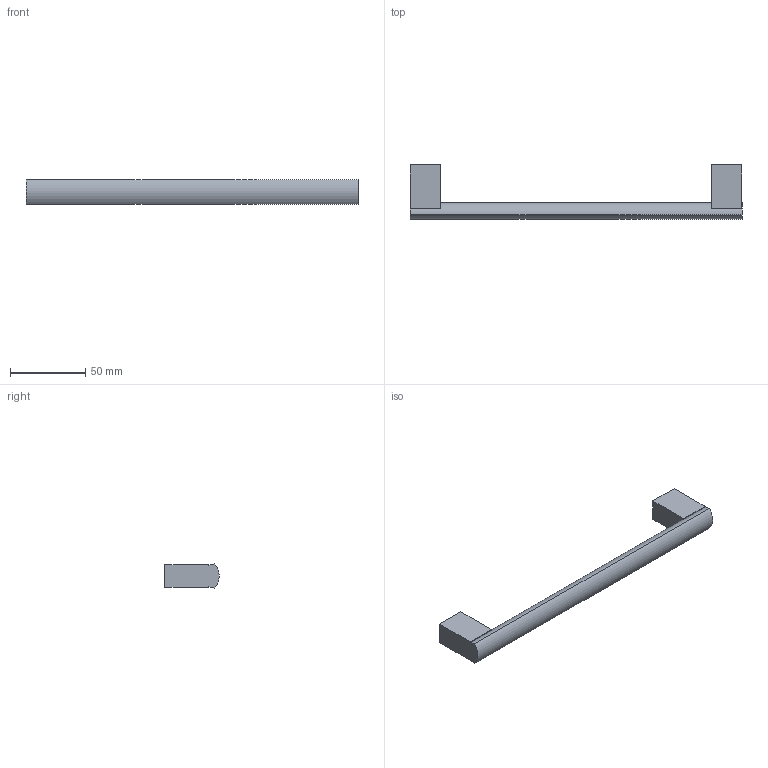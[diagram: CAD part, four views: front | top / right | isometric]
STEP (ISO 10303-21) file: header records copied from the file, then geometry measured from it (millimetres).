
FILE_DESCRIPTION( ( 'STEP AP214' ), '1' );
FILE_NAME( 'D:/Shahbaz D&D/Task/Check and correct handles with 3 drill sockets/Clivia/115215.stp', '2023-02-20T10:37:55', ( '' ), ( '' ), ' ', 'PARTsolutions', ' ' );
FILE_SCHEMA( ( 'AUTOMOTIVE_DESIGN { 1 0 10303 214 1 1 1 1 }' ) );
Length unit declared in the file: millimetre
Products named in the file (1): _115215
Bounding box: 220 x 35.96 x 16 mm (x, y, z)
Volume: 44977.7 mm3; surface area: 13716.6 mm2
Topology: 1 solids, 1 shells, 21 faces, 48 edges, 32 vertices
Faces by surface type: plane 17, cylinder 4
Full cylindrical faces by diameter (mm): 4 x2
Entity records: 768 total; most frequent: DIRECTION 102, CARTESIAN_POINT 100, ORIENTED_EDGE 92, EDGE_CURVE 46, AXIS2_PLACEMENT_3D 34, LINE 34, VECTOR 34, VERTEX_POINT 32
